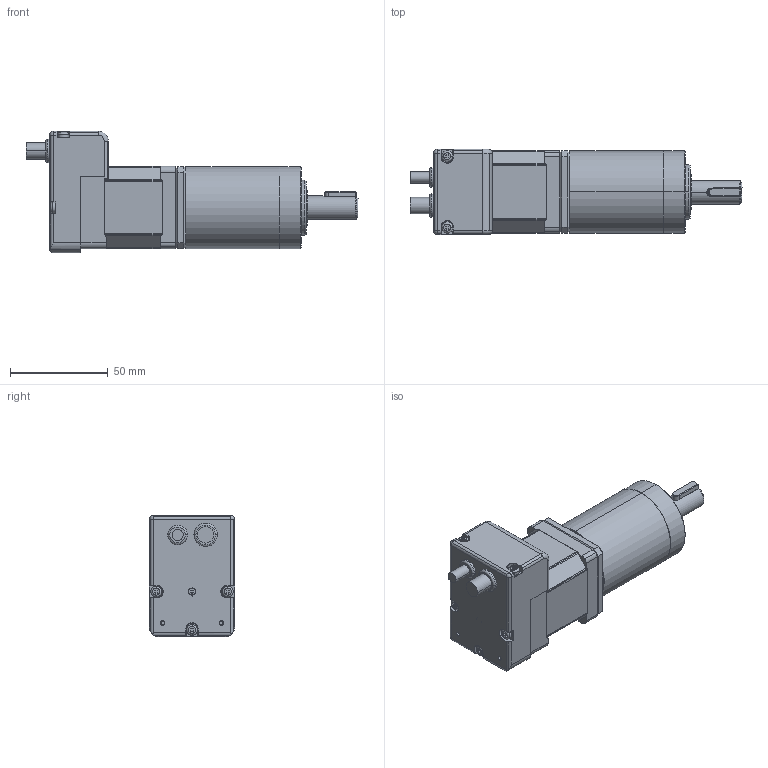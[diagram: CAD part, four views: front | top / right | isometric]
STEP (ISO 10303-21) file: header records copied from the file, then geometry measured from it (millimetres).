
FILE_DESCRIPTION(('STEP AP214'),'1');
FILE_NAME('D:\仕事\テーマ別\3DCAD\RSA0411-G5\tmp0.STEP',' ',(' '),(' '),'XStep 1.0',' ',' ');
FILE_SCHEMA(('automotive_design'));
Length unit declared in the file: millimetre
Bounding box: 169.5 x 43.5 x 62 mm (x, y, z)
Volume: 234842.3 mm3; surface area: 52706.5 mm2
Topology: 23 solids, 23 shells, 616 faces, 1519 edges, 959 vertices
Faces by surface type: cylinder 264, plane 254, torus 60, cone 22, bspline 14, sphere 2
Entity records: 24880 total; most frequent: CARTESIAN_POINT 4441, DIRECTION 3363, ORIENTED_EDGE 3034, EDGE_CURVE 1517, AXIS2_PLACEMENT_3D 1264, VERTEX_POINT 959, LINE 835, VECTOR 835
